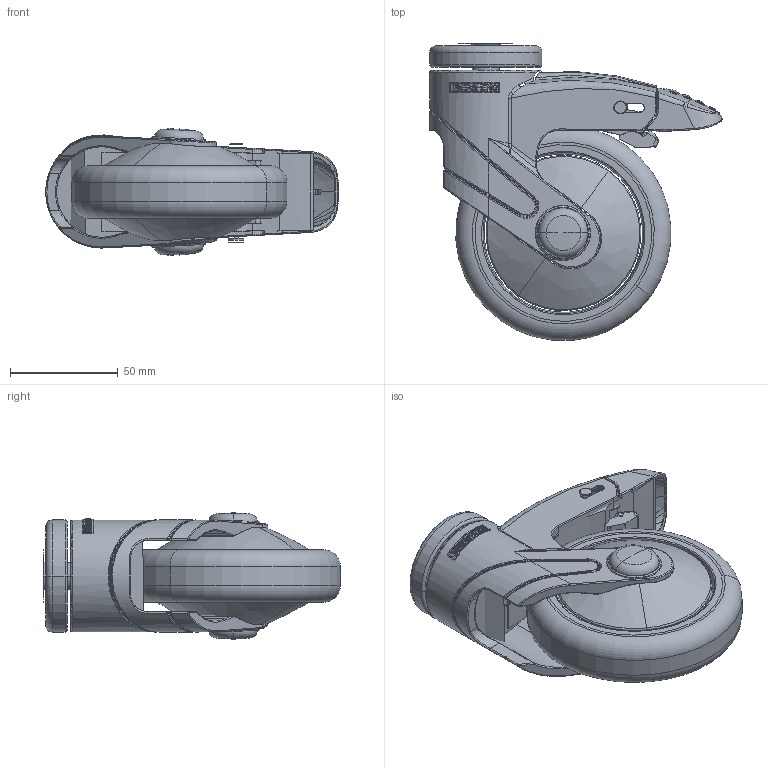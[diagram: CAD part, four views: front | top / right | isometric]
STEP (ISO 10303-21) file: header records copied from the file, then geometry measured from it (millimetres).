
FILE_DESCRIPTION((''),'2;1');
FILE_NAME('PRT0004','2025-08-07T10:20:29',('Administrator'),(''),'CREO PARAMETRIC BY PTC INC, 2022124','CREO PARAMETRIC BY PTC INC, 2022124','');
FILE_SCHEMA(('AUTOMOTIVE_DESIGN { 1 0 10303 214 1 1 1 1 }'));
Length unit declared in the file: millimetre
Products named in the file (1): PRT0004
Bounding box: 135.73 x 137.87 x 58.65 mm (x, y, z)
Surface area: 61920.8 mm2 (no closed solid volume)
Topology: 0 solids, 32 shells, 433 faces, 1676 edges, 1213 vertices
Faces by surface type: bspline 214, cylinder 100, plane 63, torus 40, cone 10, sphere 4, extrusion 2
Entity records: 37928 total; most frequent: CARTESIAN_POINT 23114, ORIENTED_EDGE 2451, DIRECTION 1870, EDGE_CURVE 1664, VERTEX_POINT 1213, B_SPLINE_CURVE_WITH_KNOTS 782, AXIS2_PLACEMENT_3D 754, CIRCLE 527
